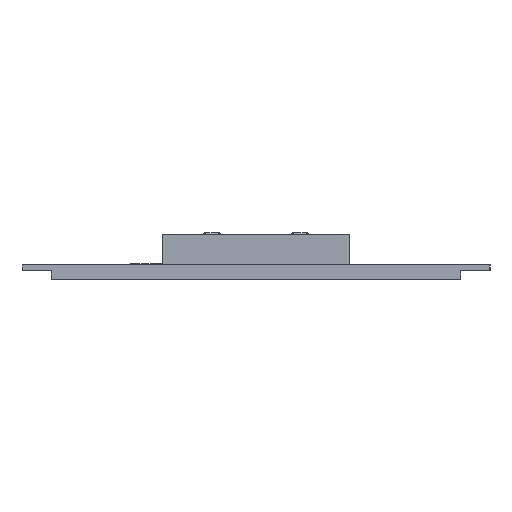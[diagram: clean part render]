
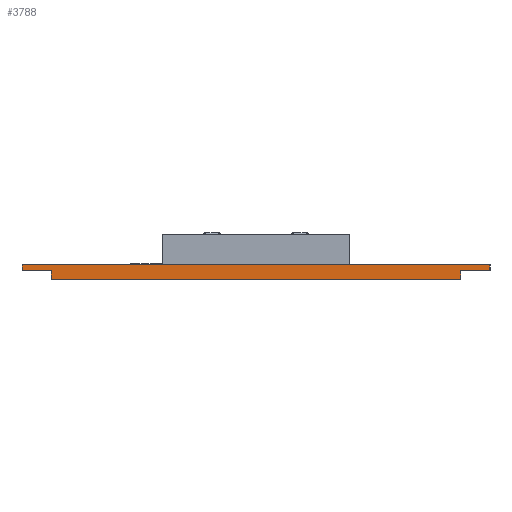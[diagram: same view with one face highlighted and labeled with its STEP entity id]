
A CAD part, left-side view. The second image highlights one B-rep face of the part: STEP entity #3788.
In plain terms, the highlighted planar face has unit normal (-1, 0, 0).
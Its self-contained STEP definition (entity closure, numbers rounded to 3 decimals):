
#76=DIRECTION('',(0.,1.,0.));
#77=VECTOR('',#76,0.5);
#78=CARTESIAN_POINT('',(-50.,-4.,0.25));
#79=LINE('',#78,#77);
#80=DIRECTION('',(0.,1.,0.));
#81=VECTOR('',#80,0.3);
#82=CARTESIAN_POINT('',(-50.,-0.15,0.25));
#83=LINE('',#82,#81);
#96=DIRECTION('',(0.,1.,0.));
#97=VECTOR('',#96,0.5);
#98=CARTESIAN_POINT('',(-50.,3.5,0.25));
#99=LINE('',#98,#97);
#904=DIRECTION('',(0.,1.,0.));
#905=VECTOR('',#904,3.35);
#906=CARTESIAN_POINT('',(-50.,0.15,0.25));
#907=LINE('',#906,#905);
#908=DIRECTION('',(0.,0.,-1.));
#909=VECTOR('',#908,0.1);
#910=CARTESIAN_POINT('',(-50.,-4.,0.25));
#911=LINE('',#910,#909);
#912=DIRECTION('',(0.,1.,0.));
#913=VECTOR('',#912,0.5);
#914=CARTESIAN_POINT('',(-50.,-4.,0.15));
#915=LINE('',#914,#913);
#916=DIRECTION('',(0.,1.,0.));
#917=VECTOR('',#916,0.5);
#918=CARTESIAN_POINT('',(-50.,3.5,0.15));
#919=LINE('',#918,#917);
#920=DIRECTION('',(0.,0.,1.));
#921=VECTOR('',#920,0.1);
#922=CARTESIAN_POINT('',(-50.,4.,0.15));
#923=LINE('',#922,#921);
#968=DIRECTION('',(0.,1.,0.));
#969=VECTOR('',#968,3.35);
#970=CARTESIAN_POINT('',(-50.,-3.5,0.25));
#971=LINE('',#970,#969);
#1024=DIRECTION('',(0.,0.,-1.));
#1025=VECTOR('',#1024,0.15);
#1026=CARTESIAN_POINT('',(-50.,-3.5,0.15));
#1027=LINE('',#1026,#1025);
#1032=DIRECTION('',(0.,-1.,0.));
#1033=VECTOR('',#1032,7.);
#1034=CARTESIAN_POINT('',(-50.,3.5,0.));
#1035=LINE('',#1034,#1033);
#1048=DIRECTION('',(0.,0.,1.));
#1049=VECTOR('',#1048,0.15);
#1050=CARTESIAN_POINT('',(-50.,3.5,0.));
#1051=LINE('',#1050,#1049);
#2231=CARTESIAN_POINT('',(-50.,3.5,0.));
#2233=VERTEX_POINT('',#2231);
#2234=CARTESIAN_POINT('',(-50.,-3.5,0.));
#2236=VERTEX_POINT('',#2234);
#2282=CARTESIAN_POINT('',(-50.,-4.,0.15));
#2283=CARTESIAN_POINT('',(-50.,-3.5,0.15));
#2284=VERTEX_POINT('',#2282);
#2285=VERTEX_POINT('',#2283);
#2294=CARTESIAN_POINT('',(-50.,3.5,0.15));
#2295=VERTEX_POINT('',#2294);
#2296=CARTESIAN_POINT('',(-50.,4.,0.15));
#2297=VERTEX_POINT('',#2296);
#2300=CARTESIAN_POINT('',(-50.,-4.,0.25));
#2301=VERTEX_POINT('',#2300);
#2304=CARTESIAN_POINT('',(-50.,4.,0.25));
#2305=VERTEX_POINT('',#2304);
#2559=CARTESIAN_POINT('',(-50.,-3.5,0.25));
#2561=VERTEX_POINT('',#2559);
#2564=CARTESIAN_POINT('',(-50.,-0.15,0.25));
#2565=VERTEX_POINT('',#2564);
#2630=CARTESIAN_POINT('',(-50.,0.15,0.25));
#2631=CARTESIAN_POINT('',(-50.,3.5,0.25));
#2632=VERTEX_POINT('',#2630);
#2633=VERTEX_POINT('',#2631);
#3761=CARTESIAN_POINT('',(-50.,0.,0.125));
#3762=DIRECTION('',(1.,0.,0.));
#3763=DIRECTION('',(0.,0.,1.));
#3764=AXIS2_PLACEMENT_3D('',#3761,#3762,#3763);
#3765=PLANE('',#3764);
#3767=ORIENTED_EDGE('',*,*,#3766,.F.);
#3768=ORIENTED_EDGE('',*,*,#2997,.F.);
#3770=ORIENTED_EDGE('',*,*,#3769,.F.);
#3771=ORIENTED_EDGE('',*,*,#2990,.F.);
#3773=ORIENTED_EDGE('',*,*,#3772,.T.);
#3775=ORIENTED_EDGE('',*,*,#3774,.T.);
#3777=ORIENTED_EDGE('',*,*,#3776,.T.);
#3779=ORIENTED_EDGE('',*,*,#3778,.F.);
#3781=ORIENTED_EDGE('',*,*,#3780,.T.);
#3783=ORIENTED_EDGE('',*,*,#3782,.T.);
#3784=ORIENTED_EDGE('',*,*,#3752,.T.);
#3785=ORIENTED_EDGE('',*,*,#3005,.F.);
#3786=EDGE_LOOP('',(#3767,#3768,#3770,#3771,#3773,#3775,#3777,#3779,#3781,#3783,
#3784,#3785));
#3787=FACE_OUTER_BOUND('',#3786,.F.);
#3788=ADVANCED_FACE('',(#3787),#3765,.F.);
#2990=EDGE_CURVE('',#2301,#2561,#79,.T.);
#2997=EDGE_CURVE('',#2565,#2632,#83,.T.);
#3005=EDGE_CURVE('',#2633,#2305,#99,.T.);
#3752=EDGE_CURVE('',#2297,#2305,#923,.T.);
#3766=EDGE_CURVE('',#2632,#2633,#907,.T.);
#3769=EDGE_CURVE('',#2561,#2565,#971,.T.);
#3772=EDGE_CURVE('',#2301,#2284,#911,.T.);
#3774=EDGE_CURVE('',#2284,#2285,#915,.T.);
#3776=EDGE_CURVE('',#2285,#2236,#1027,.T.);
#3778=EDGE_CURVE('',#2233,#2236,#1035,.T.);
#3780=EDGE_CURVE('',#2233,#2295,#1051,.T.);
#3782=EDGE_CURVE('',#2295,#2297,#919,.T.);
